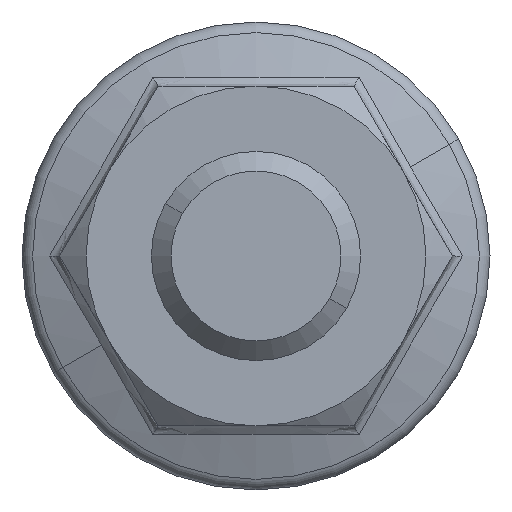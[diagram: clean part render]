
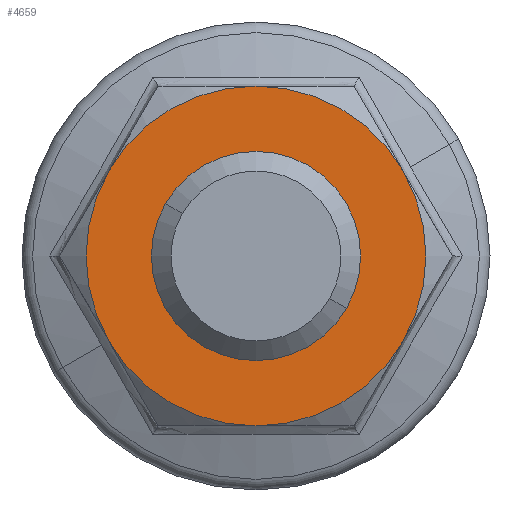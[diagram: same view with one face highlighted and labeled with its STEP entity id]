
A CAD part, left-side view. The second image highlights one B-rep face of the part: STEP entity #4659.
In plain terms, the highlighted planar face has unit normal (-1, 0, 0) as drawn and (0, 0, 1) by its records, which use the part's own axes.
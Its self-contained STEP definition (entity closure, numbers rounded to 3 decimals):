
#43 = ORIENTED_EDGE ( 'NONE', *, *, #7327, .T. ) ;
#245 = AXIS2_PLACEMENT_3D ( 'NONE', #1962, #3870, #3171 ) ;
#328 = VERTEX_POINT ( 'NONE', #736 ) ;
#479 = ORIENTED_EDGE ( 'NONE', *, *, #5842, .T. ) ;
#705 = FACE_OUTER_BOUND ( 'NONE', #5311, .T. ) ;
#736 = CARTESIAN_POINT ( 'NONE',  ( 3.25, 5.629, 0. ) ) ;
#969 = EDGE_CURVE ( 'NONE', #4799, #328, #8019, .T. ) ;
#1020 = DIRECTION ( 'NONE',  ( 0., 0., 1. ) ) ;
#1032 = VERTEX_POINT ( 'NONE', #1461 ) ;
#1080 = AXIS2_PLACEMENT_3D ( 'NONE', #5849, #1234, #5659 ) ;
#1234 = DIRECTION ( 'NONE',  ( 0., 0., 1. ) ) ;
#1461 = CARTESIAN_POINT ( 'NONE',  ( 3.25, -5.629, 0. ) ) ;
#1486 = VERTEX_POINT ( 'NONE', #7466 ) ;
#1552 = ORIENTED_EDGE ( 'NONE', *, *, #969, .T. ) ;
#1636 = DIRECTION ( 'NONE',  ( 1., 0., 0. ) ) ;
#1854 = AXIS2_PLACEMENT_3D ( 'NONE', #3769, #6290, #3811 ) ;
#1962 = CARTESIAN_POINT ( 'NONE',  ( 0., 0., 0. ) ) ;
#1966 = DIRECTION ( 'NONE',  ( 1., 0., 0. ) ) ;
#1996 = DIRECTION ( 'NONE',  ( 1., 0., 0. ) ) ;
#2151 = EDGE_CURVE ( 'NONE', #1032, #4799, #7538, .T. ) ;
#2459 = AXIS2_PLACEMENT_3D ( 'NONE', #7055, #7657, #1996 ) ;
#2586 = ORIENTED_EDGE ( 'NONE', *, *, #2151, .T. ) ;
#2672 = CARTESIAN_POINT ( 'NONE',  ( -3.964, 0., 0. ) ) ;
#2825 = DIRECTION ( 'NONE',  ( 0., 0., 1. ) ) ;
#2919 = AXIS2_PLACEMENT_3D ( 'NONE', #6362, #7023, #1966 ) ;
#3130 = VERTEX_POINT ( 'NONE', #2672 ) ;
#3155 = CIRCLE ( 'NONE', #245, 6.5 ) ;
#3171 = DIRECTION ( 'NONE',  ( 1., 0., 0. ) ) ;
#3229 = CARTESIAN_POINT ( 'NONE',  ( 0., 0., 0. ) ) ;
#3231 = FACE_BOUND ( 'NONE', #6285, .T. ) ;
#3255 = CARTESIAN_POINT ( 'NONE',  ( 0., 0., 0. ) ) ;
#3410 = CARTESIAN_POINT ( 'NONE',  ( -3.25, -5.629, 0. ) ) ;
#3551 = AXIS2_PLACEMENT_3D ( 'NONE', #6685, #1020, #1636 ) ;
#3673 = CIRCLE ( 'NONE', #7558, 6.5 ) ;
#3686 = EDGE_CURVE ( 'NONE', #1486, #3130, #6763, .T. ) ;
#3769 = CARTESIAN_POINT ( 'NONE',  ( 0., 0., 0. ) ) ;
#3811 = DIRECTION ( 'NONE',  ( 1., 0., 0. ) ) ;
#3835 = AXIS2_PLACEMENT_3D ( 'NONE', #6369, #3885, #7042 ) ;
#3844 = PLANE ( 'NONE',  #3835 ) ;
#3870 = DIRECTION ( 'NONE',  ( 0., 0., 1. ) ) ;
#3885 = DIRECTION ( 'NONE',  ( 0., 0., 1. ) ) ;
#4173 = VERTEX_POINT ( 'NONE', #7049 ) ;
#4333 = EDGE_CURVE ( 'NONE', #328, #6030, #6477, .T. ) ;
#4659 = ADVANCED_FACE ( 'NONE', ( #3231, #705 ), #3844, .T. ) ;
#4799 = VERTEX_POINT ( 'NONE', #7172 ) ;
#4883 = ORIENTED_EDGE ( 'NONE', *, *, #4333, .T. ) ;
#5311 = EDGE_LOOP ( 'NONE', ( #2586, #1552, #4883, #7932, #43, #479 ) ) ;
#5342 = DIRECTION ( 'NONE',  ( 1., 0., 0. ) ) ;
#5659 = DIRECTION ( 'NONE',  ( 1., 0., 0. ) ) ;
#5768 = DIRECTION ( 'NONE',  ( 0., 0., 1. ) ) ;
#5842 = EDGE_CURVE ( 'NONE', #6529, #1032, #3155, .T. ) ;
#5849 = CARTESIAN_POINT ( 'NONE',  ( 0., 0., 0. ) ) ;
#6016 = CARTESIAN_POINT ( 'NONE',  ( -3.25, 5.629, 0. ) ) ;
#6030 = VERTEX_POINT ( 'NONE', #6016 ) ;
#6081 = CIRCLE ( 'NONE', #7152, 6.5 ) ;
#6285 = EDGE_LOOP ( 'NONE', ( #7593, #7691 ) ) ;
#6290 = DIRECTION ( 'NONE',  ( 0., 0., 1. ) ) ;
#6310 = EDGE_CURVE ( 'NONE', #6030, #4173, #3673, .T. ) ;
#6362 = CARTESIAN_POINT ( 'NONE',  ( 0., 0., 0. ) ) ;
#6369 = CARTESIAN_POINT ( 'NONE',  ( -13., 0., 0. ) ) ;
#6394 = DIRECTION ( 'NONE',  ( 1., 0., 0. ) ) ;
#6477 = CIRCLE ( 'NONE', #1854, 6.5 ) ;
#6529 = VERTEX_POINT ( 'NONE', #3410 ) ;
#6685 = CARTESIAN_POINT ( 'NONE',  ( 0., 0., 0. ) ) ;
#6763 = CIRCLE ( 'NONE', #1080, 3.964 ) ;
#7023 = DIRECTION ( 'NONE',  ( 0., 0., 1. ) ) ;
#7042 = DIRECTION ( 'NONE',  ( 1., 0., 0. ) ) ;
#7049 = CARTESIAN_POINT ( 'NONE',  ( -6.5, 0., 0. ) ) ;
#7055 = CARTESIAN_POINT ( 'NONE',  ( 0., 0., 0. ) ) ;
#7152 = AXIS2_PLACEMENT_3D ( 'NONE', #3229, #2825, #5342 ) ;
#7172 = CARTESIAN_POINT ( 'NONE',  ( 6.5, 0., 0. ) ) ;
#7327 = EDGE_CURVE ( 'NONE', #4173, #6529, #6081, .T. ) ;
#7466 = CARTESIAN_POINT ( 'NONE',  ( 3.964, 0., 0. ) ) ;
#7538 = CIRCLE ( 'NONE', #2919, 6.5 ) ;
#7558 = AXIS2_PLACEMENT_3D ( 'NONE', #3255, #5768, #6394 ) ;
#7593 = ORIENTED_EDGE ( 'NONE', *, *, #7598, .F. ) ;
#7598 = EDGE_CURVE ( 'NONE', #3130, #1486, #8165, .T. ) ;
#7657 = DIRECTION ( 'NONE',  ( 0., 0., 1. ) ) ;
#7691 = ORIENTED_EDGE ( 'NONE', *, *, #3686, .F. ) ;
#7932 = ORIENTED_EDGE ( 'NONE', *, *, #6310, .T. ) ;
#8019 = CIRCLE ( 'NONE', #2459, 6.5 ) ;
#8165 = CIRCLE ( 'NONE', #3551, 3.964 ) ;
